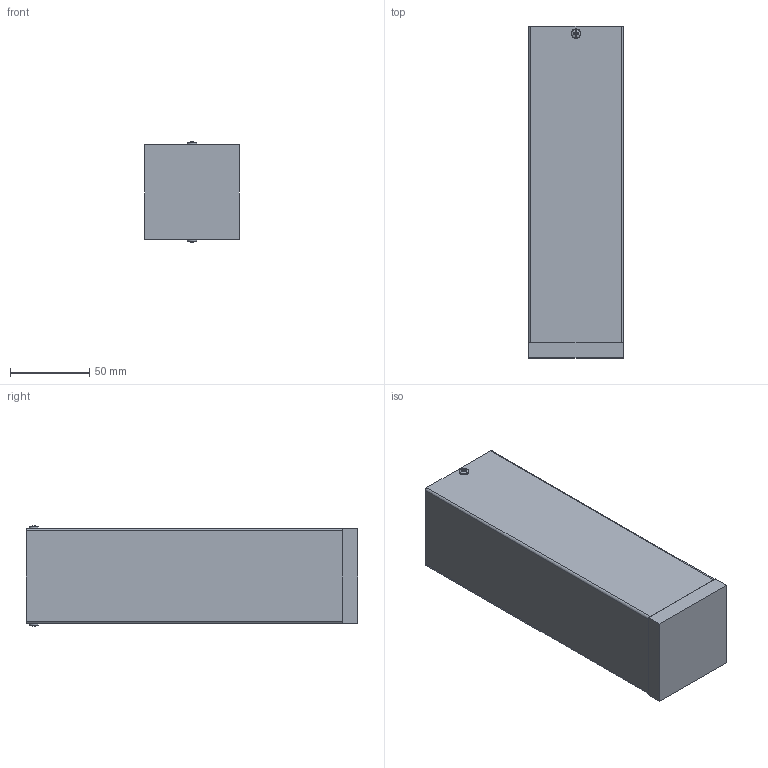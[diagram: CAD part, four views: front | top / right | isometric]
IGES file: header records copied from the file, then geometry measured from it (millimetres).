
Start section: SolidWorks IGES file using analytic representation for surfaces
Global section: file name: C:\Users\Asia\Desktop\Bryce\Bryce_5705,5708,5718\Bryce_5705,5708,5718.IGS; native system: SolidWorks 2016; preprocessor: SolidWorks 2016; author: Asia; date: 160829.080922; units: millimetre
Bounding box: 60 x 210 x 63.4 mm (x, y, z)
Surface area: 112080.3 mm2 (no closed solid volume)
Topology: 0 solids, 0 shells, 96 faces, 1308 edges, 1308 vertices
Faces by surface type: bspline 60, revolution 36
